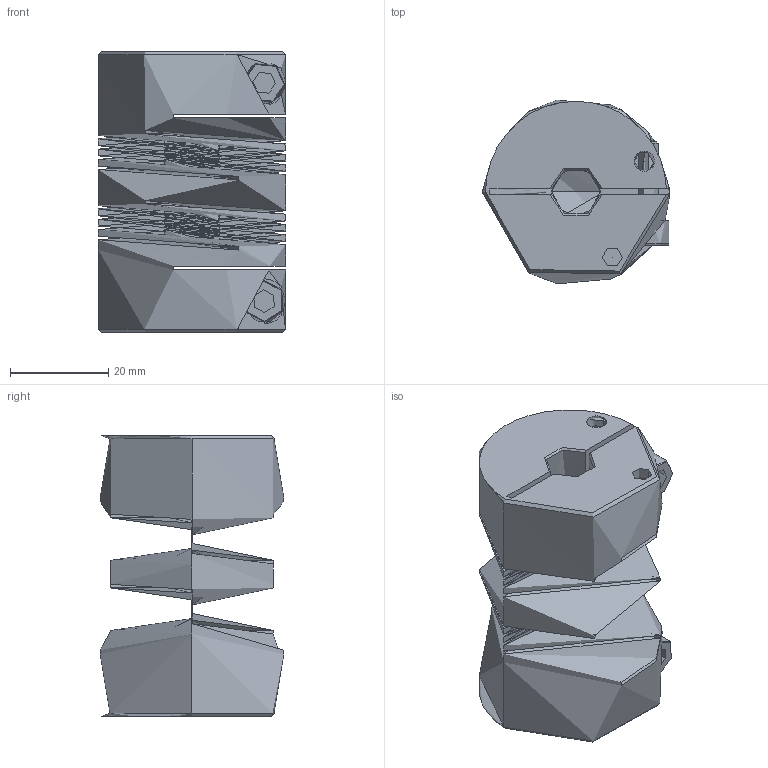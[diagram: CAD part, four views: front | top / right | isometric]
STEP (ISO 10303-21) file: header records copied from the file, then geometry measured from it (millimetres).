
FILE_DESCRIPTION((''),'2;1');
FILE_NAME('FCMR38-10-10-A','2016-09-08T',('SYSTEM'),(''),'PRO/ENGINEER BY PARAMETRIC TECHNOLOGY CORPORATION, 2015110','PRO/ENGINEER BY PARAMETRIC TECHNOLOGY CORPORATION, 2015110','');
FILE_SCHEMA(('AUTOMOTIVE_DESIGN { 1 0 10303 214 1 1 1 1 }'));
Length unit declared in the file: inch
Products named in the file (1): FCMR38-10-10-A
Bounding box: 38.1 x 37.33 x 57.15 mm (x, y, z)
Topology: 0 solids, 13 shells, 162 faces, 440 edges, 286 vertices
Faces by surface type: cylinder 64, plane 60, cone 26, bspline 12
Entity records: 8613 total; most frequent: CARTESIAN_POINT 4269, ORIENTED_EDGE 896, DIRECTION 738, EDGE_CURVE 452, VERTEX_POINT 294, AXIS2_PLACEMENT_3D 257, VECTOR 224, LINE 224
